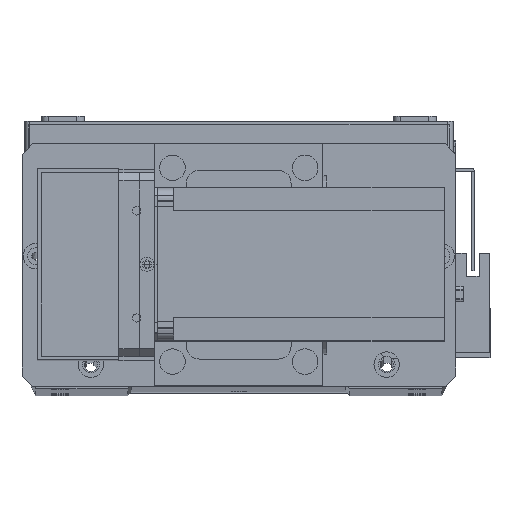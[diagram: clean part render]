
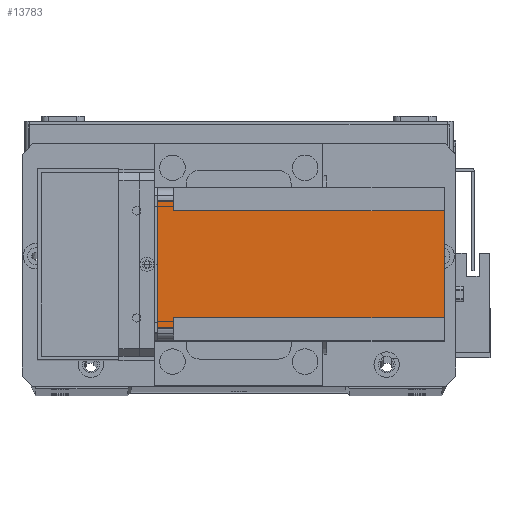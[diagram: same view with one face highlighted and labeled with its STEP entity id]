
A CAD part, top view. The second image highlights one B-rep face of the part: STEP entity #13783.
In plain terms, the highlighted planar face has unit normal (0, 0, 1) as drawn and (-1, 0, 0) by its records, which use the part's own axes.
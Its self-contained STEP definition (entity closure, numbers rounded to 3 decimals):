
#103 = EDGE_CURVE ( 'NONE', #19322, #10516, #2561, .T. ) ;
#309 = CARTESIAN_POINT ( 'NONE',  ( 0., 5., -112.5 ) ) ;
#1198 = LINE ( 'NONE', #1647, #12929 ) ;
#1647 = CARTESIAN_POINT ( 'NONE',  ( 0., 9., -112.5 ) ) ;
#2170 = ORIENTED_EDGE ( 'NONE', *, *, #31183, .F. ) ;
#2561 = LINE ( 'NONE', #19000, #9219 ) ;
#3389 = EDGE_CURVE ( 'NONE', #16771, #28158, #11024, .T. ) ;
#3478 = AXIS2_PLACEMENT_3D ( 'NONE', #22701, #27728, #12758 ) ;
#4179 = DIRECTION ( 'NONE',  ( 0., 0., -1. ) ) ;
#4596 = CARTESIAN_POINT ( 'NONE',  ( 0., 0., -112.5 ) ) ;
#5196 = DIRECTION ( 'NONE',  ( 0., 0., -1. ) ) ;
#5738 = EDGE_CURVE ( 'NONE', #31818, #28158, #13674, .T. ) ;
#6121 = FACE_OUTER_BOUND ( 'NONE', #27881, .T. ) ;
#6535 = DIRECTION ( 'NONE',  ( 0., 0., 1. ) ) ;
#6966 = VERTEX_POINT ( 'NONE', #30542 ) ;
#8007 = ORIENTED_EDGE ( 'NONE', *, *, #3389, .T. ) ;
#9153 = CARTESIAN_POINT ( 'NONE',  ( 0., 9., -6.5 ) ) ;
#9219 = VECTOR ( 'NONE', #6535, 1000. ) ;
#9426 = ORIENTED_EDGE ( 'NONE', *, *, #12740, .F. ) ;
#9854 = CARTESIAN_POINT ( 'NONE',  ( 0., 55., -6.5 ) ) ;
#10515 = ORIENTED_EDGE ( 'NONE', *, *, #23248, .T. ) ;
#10516 = VERTEX_POINT ( 'NONE', #10913 ) ;
#10652 = CARTESIAN_POINT ( 'NONE',  ( 0., 0., -6.5 ) ) ;
#10877 = LINE ( 'NONE', #4596, #16712 ) ;
#10913 = CARTESIAN_POINT ( 'NONE',  ( 0., 51., -6.5 ) ) ;
#11024 = LINE ( 'NONE', #309, #11774 ) ;
#11774 = VECTOR ( 'NONE', #27751, 1000. ) ;
#12026 = ORIENTED_EDGE ( 'NONE', *, *, #5738, .F. ) ;
#12740 = EDGE_CURVE ( 'NONE', #16771, #14985, #14357, .T. ) ;
#12756 = VECTOR ( 'NONE', #17918, 1000. ) ;
#12758 = DIRECTION ( 'NONE',  ( 0., -1., 0. ) ) ;
#12929 = VECTOR ( 'NONE', #4179, 1000. ) ;
#13125 = EDGE_CURVE ( 'NONE', #19322, #6966, #10877, .T. ) ;
#13135 = LINE ( 'NONE', #27591, #19017 ) ;
#13674 = LINE ( 'NONE', #14083, #20338 ) ;
#13783 = ADVANCED_FACE ( 'NONE', ( #6121 ), #15165, .T. ) ;
#13830 = EDGE_CURVE ( 'NONE', #10516, #16295, #25274, .T. ) ;
#14083 = CARTESIAN_POINT ( 'NONE',  ( 0., 0., 0. ) ) ;
#14357 = LINE ( 'NONE', #10652, #28478 ) ;
#14518 = CARTESIAN_POINT ( 'NONE',  ( 0., 5., 0. ) ) ;
#14661 = ORIENTED_EDGE ( 'NONE', *, *, #13830, .F. ) ;
#14985 = VERTEX_POINT ( 'NONE', #9153 ) ;
#15165 = PLANE ( 'NONE',  #3478 ) ;
#15387 = CARTESIAN_POINT ( 'NONE',  ( 0., 60., -6.5 ) ) ;
#15569 = DIRECTION ( 'NONE',  ( 0., 1., 0. ) ) ;
#16295 = VERTEX_POINT ( 'NONE', #9854 ) ;
#16691 = CARTESIAN_POINT ( 'NONE',  ( 0., 5., -6.5 ) ) ;
#16712 = VECTOR ( 'NONE', #29613, 1000. ) ;
#16771 = VERTEX_POINT ( 'NONE', #16691 ) ;
#17325 = ORIENTED_EDGE ( 'NONE', *, *, #103, .F. ) ;
#17918 = DIRECTION ( 'NONE',  ( 0., 1., 0. ) ) ;
#17983 = CARTESIAN_POINT ( 'NONE',  ( 0., 51., -112.5 ) ) ;
#19000 = CARTESIAN_POINT ( 'NONE',  ( 0., 51., -112.5 ) ) ;
#19017 = VECTOR ( 'NONE', #5196, 1000. ) ;
#19322 = VERTEX_POINT ( 'NONE', #17983 ) ;
#20338 = VECTOR ( 'NONE', #21414, 1000. ) ;
#21414 = DIRECTION ( 'NONE',  ( 0., -1., 0. ) ) ;
#21481 = CARTESIAN_POINT ( 'NONE',  ( 0., 55., 0. ) ) ;
#22701 = CARTESIAN_POINT ( 'NONE',  ( 0., 0., -112.5 ) ) ;
#23248 = EDGE_CURVE ( 'NONE', #31818, #16295, #13135, .T. ) ;
#25274 = LINE ( 'NONE', #15387, #12756 ) ;
#27591 = CARTESIAN_POINT ( 'NONE',  ( 0., 55., -112.5 ) ) ;
#27728 = DIRECTION ( 'NONE',  ( -1., 0., 0. ) ) ;
#27751 = DIRECTION ( 'NONE',  ( 0., 0., 1. ) ) ;
#27881 = EDGE_LOOP ( 'NONE', ( #9426, #8007, #12026, #10515, #14661, #17325, #31953, #2170 ) ) ;
#28158 = VERTEX_POINT ( 'NONE', #14518 ) ;
#28478 = VECTOR ( 'NONE', #15569, 1000. ) ;
#29613 = DIRECTION ( 'NONE',  ( 0., -1., 0. ) ) ;
#30542 = CARTESIAN_POINT ( 'NONE',  ( 0., 9., -112.5 ) ) ;
#31183 = EDGE_CURVE ( 'NONE', #14985, #6966, #1198, .T. ) ;
#31818 = VERTEX_POINT ( 'NONE', #21481 ) ;
#31953 = ORIENTED_EDGE ( 'NONE', *, *, #13125, .T. ) ;
